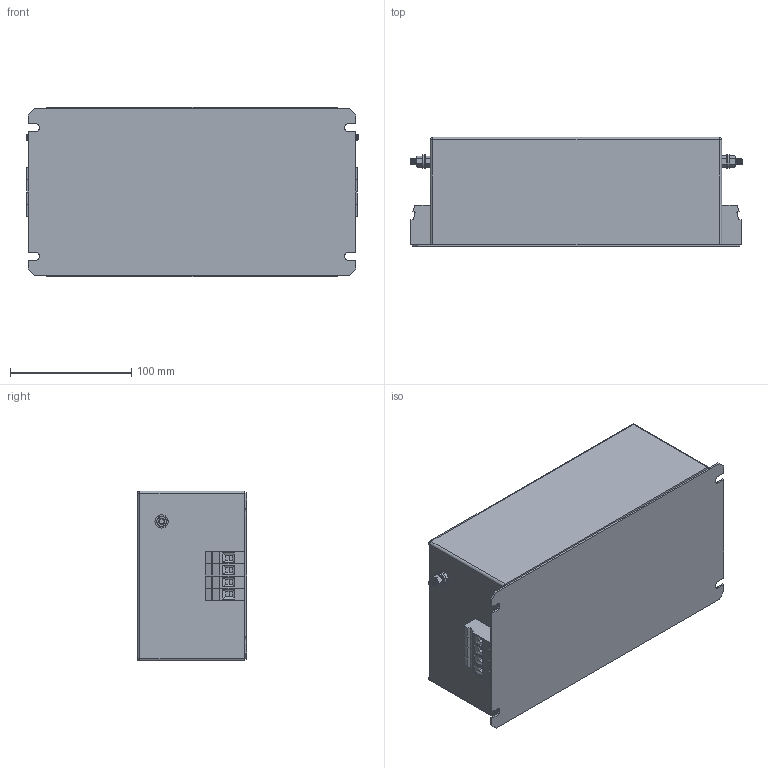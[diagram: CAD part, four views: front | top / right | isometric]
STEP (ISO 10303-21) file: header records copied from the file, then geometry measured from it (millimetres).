
FILE_DESCRIPTION (( 'STEP AP214' ), '1' );
FILE_NAME ('NF-DAR-32-4.STEP', '2019-05-15T13:40:41', ( '' ), ( '' ), 'SwSTEP 2.0', 'SolidWorks 2019', '' );
FILE_SCHEMA (( 'AUTOMOTIVE_DESIGN' ));
Length unit declared in the file: millimetre
Products named in the file (11): VDFK6x3.STEP; Hex Nut Style 1_AM_B18.2.4.1M - Hex nut, Style 1,  M5 x 0.8 --D-N.STEP; NF-DAR-32-4; Hex Screw_AM_B18.6.7M - M5 x 0.8 x 13 Plain HHMS --13S.STEP; M5x13 Earth post.STEP; DLC-E4.STEP; VDFK-6.STEP; Flat Washer Narrow_AM_B18.22M - Plain washer, 5 mm, narrow.STEP; NF-DAR-32-4.STEP
Assembly tree (22 placements, depth 4):
  NF-DAR-32-4
    NF-DAR-32-4.STEP
      VDFK6x3.STEP
        VDFK-6.STEP  x3
      M5x13 Earth post.STEP
        Hex Screw_AM_B18.6.7M - M5 x 0.8 x 13 Plain HHMS --13S.STEP
        Flat Washer Narrow_AM_B18.22M - Plain washer, 5 mm, narrow.STEP  x2
        Hex Nut Style 1_AM_B18.2.4.1M - Hex nut, Style 1,  M5 x 0.8 --D-N.STEP
      M5x13 Earth post.STEP
        Hex Screw_AM_B18.6.7M - M5 x 0.8 x 13 Plain HHMS --13S.STEP
        Flat Washer Narrow_AM_B18.22M - Plain washer, 5 mm, narrow.STEP  x2
        Hex Nut Style 1_AM_B18.2.4.1M - Hex nut, Style 1,  M5 x 0.8 --D-N.STEP
      VDFK6x3.STEP
        VDFK-6.STEP  x3
      DLC-E4.STEP
      VDFK-6.STEP  x2
Bounding box: 273.6 x 90 x 140 mm (x, y, z)
Volume: 3012177.7 mm3; surface area: 193007.4 mm2
Topology: 17 solids, 17 shells, 806 faces, 1994 edges, 1252 vertices
Faces by surface type: plane 440, cylinder 186, cone 176, sphere 4
Entity records: 8603 total; most frequent: CARTESIAN_POINT 1761, DIRECTION 1477, ORIENTED_EDGE 1302, EDGE_CURVE 651, AXIS2_PLACEMENT_3D 572, VERTEX_POINT 406, VECTOR 333, LINE 333
